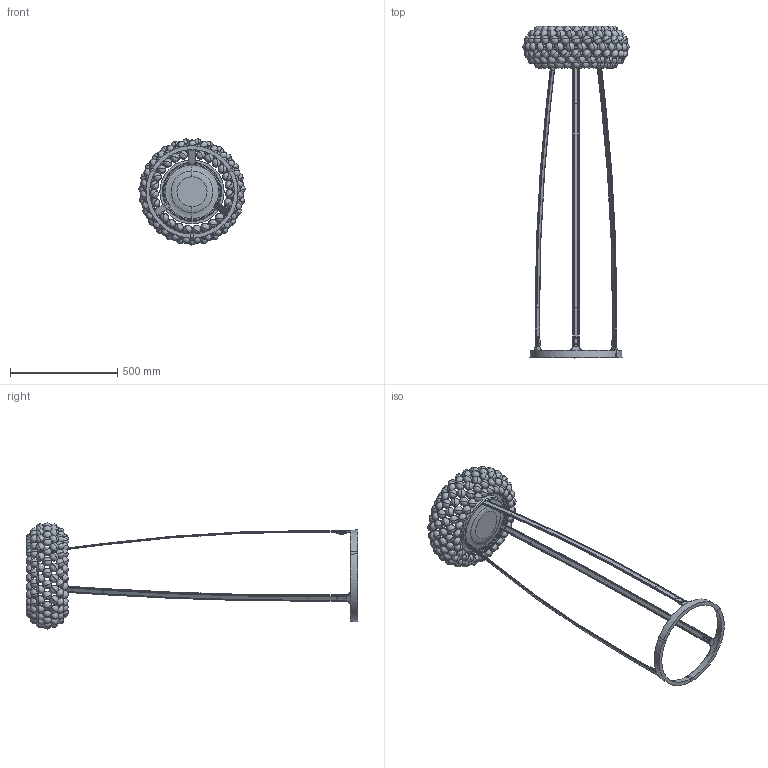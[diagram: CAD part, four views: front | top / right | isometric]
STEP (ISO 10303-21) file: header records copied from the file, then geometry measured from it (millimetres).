
FILE_DESCRIPTION (( 'STEP AP203' ), '1' );
FILE_NAME ('311_MEDIA_F_XX_3D.STEP', '2022-08-03T09:10:05', ( '' ), ( '' ), 'SwSTEP 2.0', 'SolidWorks 2022', '' );
FILE_SCHEMA (( 'CONFIG_CONTROL_DESIGN' ));
Length unit declared in the file: millimetre
Products named in the file (1): 311_MEDIA_F_XX_3D
Bounding box: 495.66 x 1548.01 x 494.84 mm (x, y, z)
Volume: 7647606.1 mm3; surface area: 1736180 mm2
Topology: 208 solids, 208 shells, 2533 faces, 5879 edges, 3408 vertices
Faces by surface type: sphere 768, cylinder 684, plane 466, torus 460, bspline 120, cone 35
Entity records: 72630 total; most frequent: CARTESIAN_POINT 18463, DIRECTION 12944, ORIENTED_EDGE 10230, AXIS2_PLACEMENT_3D 5820, EDGE_CURVE 5115, CIRCLE 3406, VERTEX_POINT 3030, EDGE_LOOP 2631
